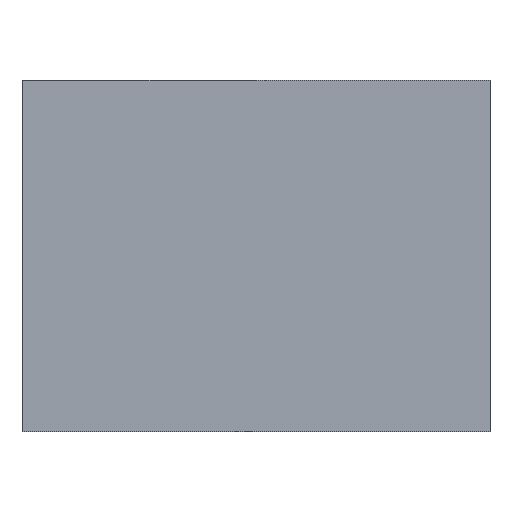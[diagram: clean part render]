
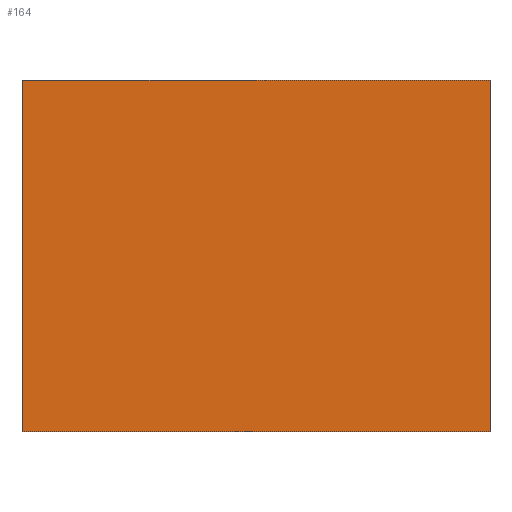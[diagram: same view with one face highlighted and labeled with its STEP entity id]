
A CAD part, front view. The second image highlights one B-rep face of the part: STEP entity #164.
In plain terms, the highlighted planar face has unit normal (0, -1, 0).
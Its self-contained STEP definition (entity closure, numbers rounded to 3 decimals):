
#19 = EDGE_CURVE ( 'NONE', #1824, #394, #1705, .T. ) ;
#27 = DIRECTION ( 'NONE',  ( 0., 1., 0. ) ) ;
#164 = ADVANCED_FACE ( 'NONE', ( #907 ), #2155, .F. ) ;
#271 = VECTOR ( 'NONE', #1814, 1000. ) ;
#334 = EDGE_LOOP ( 'NONE', ( #597, #1563, #1330, #1291 ) ) ;
#394 = VERTEX_POINT ( 'NONE', #1891 ) ;
#429 = CARTESIAN_POINT ( 'NONE',  ( -80., 0., -60. ) ) ;
#512 = EDGE_CURVE ( 'NONE', #394, #1105, #2129, .T. ) ;
#534 = VECTOR ( 'NONE', #2336, 1000. ) ;
#597 = ORIENTED_EDGE ( 'NONE', *, *, #19, .F. ) ;
#700 = EDGE_CURVE ( 'NONE', #722, #1824, #1006, .T. ) ;
#722 = VERTEX_POINT ( 'NONE', #996 ) ;
#793 = DIRECTION ( 'NONE',  ( -1., 0., 0. ) ) ;
#891 = CARTESIAN_POINT ( 'NONE',  ( 80., 0., 60. ) ) ;
#907 = FACE_OUTER_BOUND ( 'NONE', #334, .T. ) ;
#996 = CARTESIAN_POINT ( 'NONE',  ( -80., 0., 60. ) ) ;
#1006 = LINE ( 'NONE', #2254, #1852 ) ;
#1105 = VERTEX_POINT ( 'NONE', #1774 ) ;
#1165 = VECTOR ( 'NONE', #793, 1000. ) ;
#1291 = ORIENTED_EDGE ( 'NONE', *, *, #512, .F. ) ;
#1330 = ORIENTED_EDGE ( 'NONE', *, *, #1415, .F. ) ;
#1373 = DIRECTION ( 'NONE',  ( 0., 0., 1. ) ) ;
#1415 = EDGE_CURVE ( 'NONE', #1105, #722, #1528, .T. ) ;
#1528 = LINE ( 'NONE', #2142, #534 ) ;
#1563 = ORIENTED_EDGE ( 'NONE', *, *, #700, .F. ) ;
#1645 = CARTESIAN_POINT ( 'NONE',  ( 80., 0., -60. ) ) ;
#1705 = LINE ( 'NONE', #1645, #271 ) ;
#1719 = AXIS2_PLACEMENT_3D ( 'NONE', #1973, #27, #1373 ) ;
#1774 = CARTESIAN_POINT ( 'NONE',  ( -80., 0., -60. ) ) ;
#1814 = DIRECTION ( 'NONE',  ( 0., 0., -1. ) ) ;
#1824 = VERTEX_POINT ( 'NONE', #891 ) ;
#1852 = VECTOR ( 'NONE', #2093, 1000. ) ;
#1891 = CARTESIAN_POINT ( 'NONE',  ( 80., 0., -60. ) ) ;
#1973 = CARTESIAN_POINT ( 'NONE',  ( 0., 0., 0. ) ) ;
#2093 = DIRECTION ( 'NONE',  ( 1., 0., 0. ) ) ;
#2129 = LINE ( 'NONE', #429, #1165 ) ;
#2142 = CARTESIAN_POINT ( 'NONE',  ( -80., 0., -60. ) ) ;
#2155 = PLANE ( 'NONE',  #1719 ) ;
#2254 = CARTESIAN_POINT ( 'NONE',  ( -80., 0., 60. ) ) ;
#2336 = DIRECTION ( 'NONE',  ( 0., 0., 1. ) ) ;
